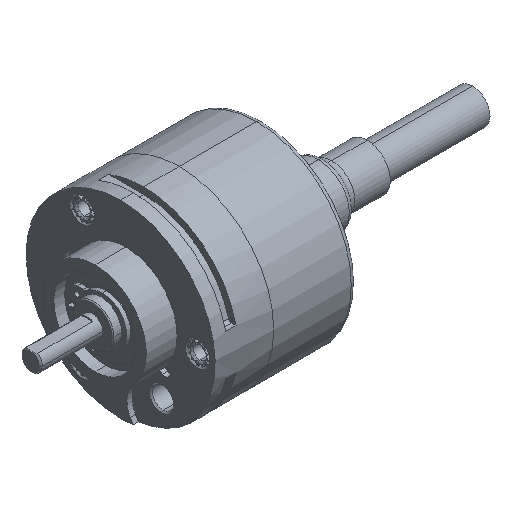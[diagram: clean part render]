
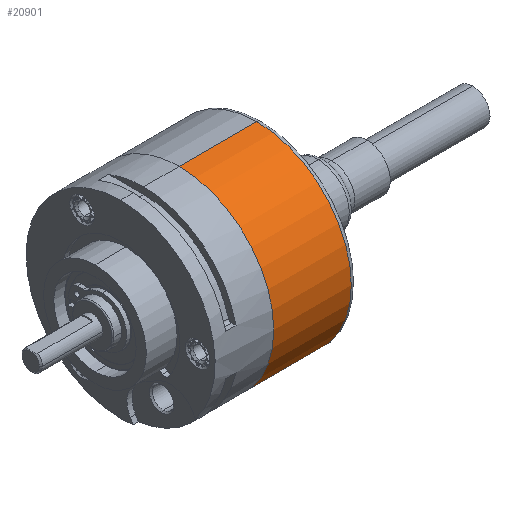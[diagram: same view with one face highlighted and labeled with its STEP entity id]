
A CAD part, isometric view. The second image highlights one B-rep face of the part: STEP entity #20901.
In plain terms, the highlighted cylindrical face has radius 18.4 mm (diameter 36.8 mm), a partial arc.
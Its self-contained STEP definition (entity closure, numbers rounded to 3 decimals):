
#20604 = VERTEX_POINT ( 'NONE', #39780 ) ;
#20607 = VERTEX_POINT ( 'NONE', #39856 ) ;
#20741 = EDGE_CURVE ( 'NONE', #20604, #20742, #40811, .T. ) ;
#20742 = VERTEX_POINT ( 'NONE', #40805 ) ;
#20745 = VERTEX_POINT ( 'NONE', #40791 ) ;
#20747 = EDGE_CURVE ( 'NONE', #20607, #20745, #40788, .T. ) ;
#20878 = EDGE_CURVE ( 'NONE', #20604, #20607, #41573, .T. ) ;
#20879 = ORIENTED_EDGE ( 'NONE', *, *, #20747, .T. ) ;
#20880 = ORIENTED_EDGE ( 'NONE', *, *, #20900, .F. ) ;
#20900 = EDGE_CURVE ( 'NONE', #20742, #20745, #41659, .T. ) ;
#20901 = ADVANCED_FACE ( 'NONE', ( #41654 ), #41711, .T. ) ;
#20902 = EDGE_LOOP ( 'NONE', ( #20903, #28544, #20879, #20880 ) ) ;
#20903 = ORIENTED_EDGE ( 'NONE', *, *, #20741, .F. ) ;
#28544 = ORIENTED_EDGE ( 'NONE', *, *, #20878, .T. ) ;
#39780 = CARTESIAN_POINT ( 'NONE',  ( -20.611, 5.115, -18.4 ) ) ;
#39856 = CARTESIAN_POINT ( 'NONE',  ( -20.611, 5.115, 18.4 ) ) ;
#40782 = DIRECTION ( 'NONE',  ( -1., 0., 0. ) ) ;
#40783 = VECTOR ( 'NONE', #40782, 1000. ) ;
#40786 = CARTESIAN_POINT ( 'NONE',  ( -35.111, 5.115, 18.4 ) ) ;
#40788 = LINE ( 'NONE', #40786, #40783 ) ;
#40791 = CARTESIAN_POINT ( 'NONE',  ( -35.711, 5.115, 18.4 ) ) ;
#40805 = CARTESIAN_POINT ( 'NONE',  ( -35.711, 5.115, -18.4 ) ) ;
#40807 = DIRECTION ( 'NONE',  ( -1., 0., 0. ) ) ;
#40809 = VECTOR ( 'NONE', #40807, 1000. ) ;
#40810 = CARTESIAN_POINT ( 'NONE',  ( -35.111, 5.115, -18.4 ) ) ;
#40811 = LINE ( 'NONE', #40810, #40809 ) ;
#41559 = DIRECTION ( 'NONE',  ( 0., 0., 1. ) ) ;
#41560 = DIRECTION ( 'NONE',  ( -1., 0., 0. ) ) ;
#41562 = CARTESIAN_POINT ( 'NONE',  ( -20.611, 5.115, 0. ) ) ;
#41563 = AXIS2_PLACEMENT_3D ( 'NONE', #41562, #41560, #41559 ) ;
#41573 = CIRCLE ( 'NONE', #41563, 18.4 ) ;
#41654 = FACE_OUTER_BOUND ( 'NONE', #20902, .T. ) ;
#41655 = DIRECTION ( 'NONE',  ( 0., 0., 1. ) ) ;
#41657 = DIRECTION ( 'NONE',  ( -1., 0., 0. ) ) ;
#41658 = AXIS2_PLACEMENT_3D ( 'NONE', #41666, #41657, #41655 ) ;
#41659 = CIRCLE ( 'NONE', #41658, 18.4 ) ;
#41666 = CARTESIAN_POINT ( 'NONE',  ( -35.711, 5.115, 0. ) ) ;
#41708 = DIRECTION ( 'NONE',  ( 0., 0., 1. ) ) ;
#41709 = DIRECTION ( 'NONE',  ( -1., 0., 0. ) ) ;
#41710 = AXIS2_PLACEMENT_3D ( 'NONE', #41717, #41709, #41708 ) ;
#41711 = CYLINDRICAL_SURFACE ( 'NONE', #41710, 18.4 ) ;
#41717 = CARTESIAN_POINT ( 'NONE',  ( -35.111, 5.115, 0. ) ) ;
